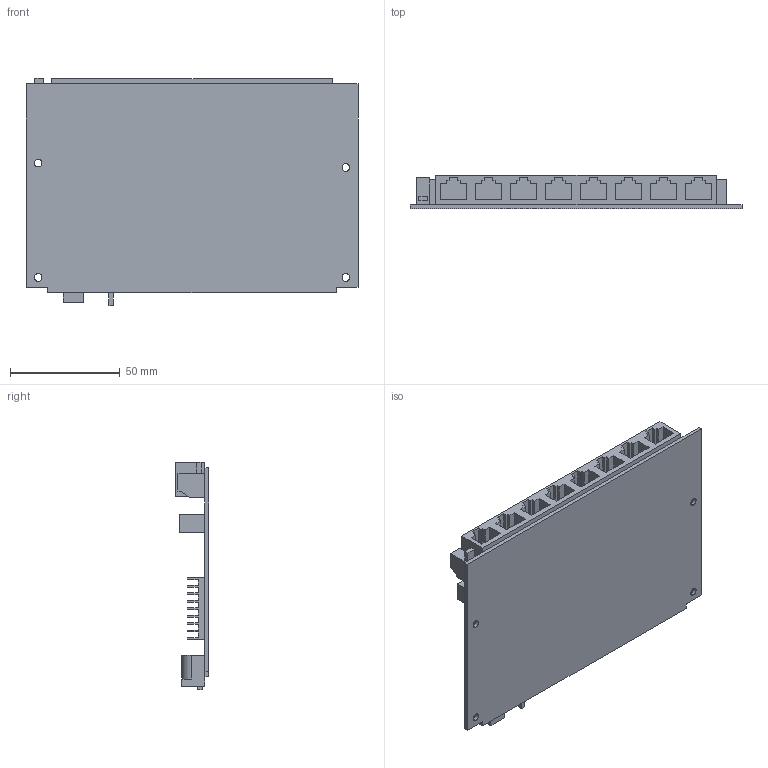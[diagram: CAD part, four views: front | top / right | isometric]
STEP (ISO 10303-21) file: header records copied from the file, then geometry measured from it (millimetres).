
FILE_DESCRIPTION (( 'STEP AP214' ), '1' );
FILE_NAME ('8-port_switch.STEP', '2015-02-26T22:52:27', ( '' ), ( '' ), '', '', '' );
FILE_SCHEMA (( '' ));
Length unit declared in the file: millimetre
Products named in the file (1): 8-port_switch
Bounding box: 151 x 15.25 x 103.3 mm (x, y, z)
Volume: 61258.5 mm3; surface area: 47285.4 mm2
Topology: 2 solids, 2 shells, 227 faces, 608 edges, 403 vertices
Faces by surface type: plane 214, cylinder 13
Entity records: 8948 total; most frequent: CARTESIAN_POINT 1239, ORIENTED_EDGE 1216, DIRECTION 1091, EDGE_CURVE 608, LINE 581, VECTOR 581, VERTEX_POINT 403, AXIS2_PLACEMENT_3D 255
